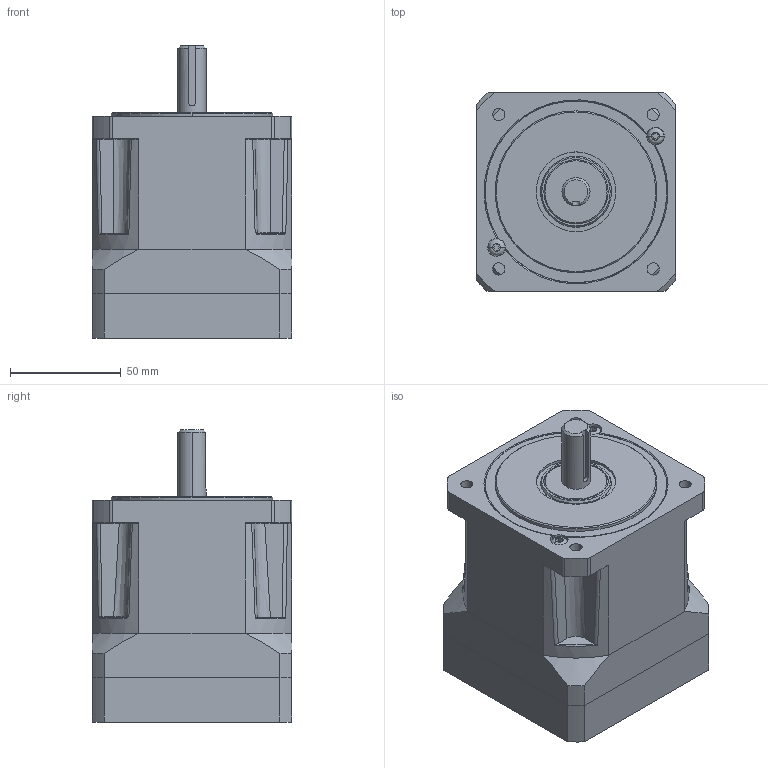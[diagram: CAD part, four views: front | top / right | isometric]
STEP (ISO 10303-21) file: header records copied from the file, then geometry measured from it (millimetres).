
FILE_DESCRIPTION((''),'2;1');
FILE_NAME('PX34-007-000-X2_SW0001','2008-11-20T',('aza7363'),(''),'PRO/ENGINEER BY PARAMETRIC TECHNOLOGY CORPORATION, 2006300','PRO/ENGINEER BY PARAMETRIC TECHNOLOGY CORPORATION, 2006300','');
FILE_SCHEMA(('CONFIG_CONTROL_DESIGN'));
Length unit declared in the file: millimetre
Products named in the file (1): PX34-007-000-X2_SW0001
Bounding box: 90 x 90 x 131.75 mm (x, y, z)
Surface area: 80942.3 mm2 (no closed solid volume)
Topology: 0 solids, 23 shells, 350 faces, 949 edges, 631 vertices
Faces by surface type: plane 141, cylinder 131, bspline 43, cone 21, torus 14
Entity records: 13080 total; most frequent: CARTESIAN_POINT 4364, DIRECTION 1807, ORIENTED_EDGE 1723, EDGE_CURVE 949, AXIS2_PLACEMENT_3D 681, VERTEX_POINT 631, VECTOR 445, LINE 445
